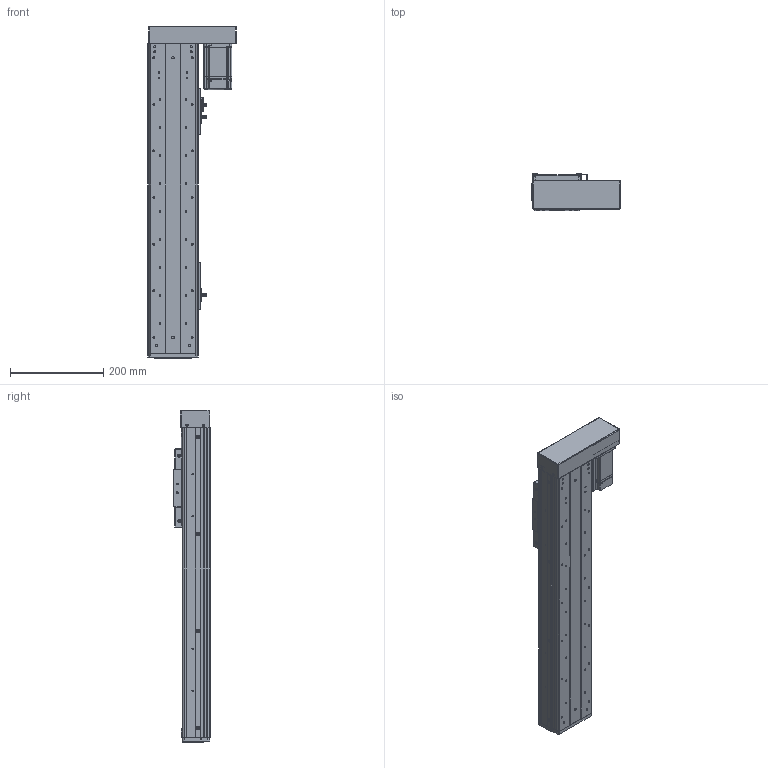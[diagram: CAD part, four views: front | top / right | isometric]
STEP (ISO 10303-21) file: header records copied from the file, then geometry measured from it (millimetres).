
FILE_DESCRIPTION (( 'STEP AP203' ), '1' );
FILE_NAME ('RY100FS-L1620-300-RK(15双轨).SLDASM_400.step', '2021-03-02T07:46:03', ( '盈信电脑' ), ( '东莞市道滘镇水果街19号' ), 'SwSTEP 2.0', 'SolidWorks 2012', '' );
FILE_SCHEMA (( 'CONFIG_CONTROL_DESIGN' ));
Length unit declared in the file: millimetre
Products named in the file (21): 蚥薯蝶紫輸; RY100FS-15邧寢蛌殏萇儂欶; RY100FS-L1620-300-RK(15邧寢).SLDASM_400; RY100FS-15邧寢蛌殏萇儂釱; RY100FS-15邧寢蛌殏萇儂啣; 1; 滅袉蝶14-35; RY100FS-双轨螺母座(16丝杆）; 覜茼ん672; RY100F-詩湍揤踡輸; 672嫖萇羲壽假蚾釱; RY100F-綴裔啣; RY80俋离覜茼え; RY100F-詩湍揤踡謫; RY100F-詩湍幗謫粣; RY100FS-双轨铝滑块(上板）; 棠沺沭; RY100F-滅鳥裔啣; RY100FS-300-RK15絳寢倰第菁釱_400; RY100FS-300-RK15邧寢祥凄詩湍_400; RY100FS-300-RK15絳寢倰第奻裔啣_400
Assembly tree (29 placements, depth 2):
  RY100FS-L1620-300-RK(15邧寢).SLDASM_400
    RY100FS-300-RK15絳寢倰第菁釱_400
    RY100FS-300-RK15絳寢倰第奻裔啣_400  x2
    RY100FS-300-RK15邧寢祥凄詩湍_400
    RY100FS-双轨铝滑块(上板）
    RY100F-滅鳥裔啣
    棠沺沭  x2
    RY100F-詩湍幗謫粣
    RY100F-詩湍揤踡謫  x2
    RY100F-綴裔啣
    672嫖萇羲壽假蚾釱  x2
    RY80俋离覜茼え  x2
    覜茼ん672  x3
    RY100F-詩湍揤踡輸  x2
    RY100FS-双轨螺母座(16丝杆）
    RY100FS-15邧寢蛌殏萇儂釱
    滅袉蝶14-35
    1
    RY100FS-15邧寢蛌殏萇儂啣
    RY100FS-15邧寢蛌殏萇儂欶
    蚥薯蝶紫輸  x2
Bounding box: 189.5 x 78.5 x 712 mm (x, y, z)
Volume: 1989032.1 mm3; surface area: 827108.1 mm2
Topology: 29 solids, 29 shells, 2196 faces, 5929 edges, 3824 vertices
Faces by surface type: plane 1021, cylinder 974, cone 168, bspline 33
Entity records: 62180 total; most frequent: CARTESIAN_POINT 12793, DIRECTION 9876, ORIENTED_EDGE 9666, EDGE_CURVE 4833, AXIS2_PLACEMENT_3D 3490, VERTEX_POINT 3172, LINE 2896, VECTOR 2896
